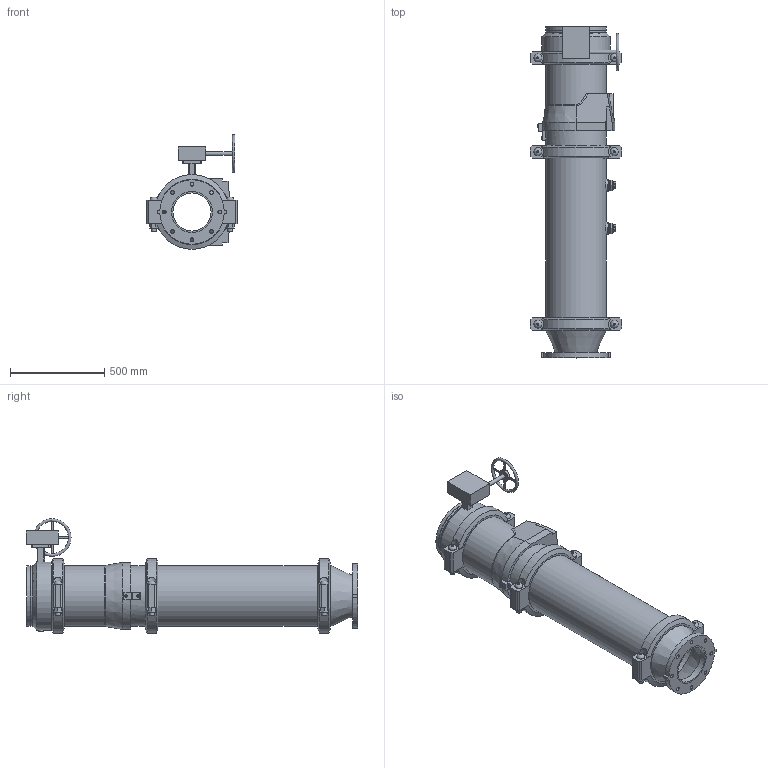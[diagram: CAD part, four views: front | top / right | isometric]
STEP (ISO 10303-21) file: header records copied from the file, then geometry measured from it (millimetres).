
FILE_DESCRIPTION(/* description */ ('VIC DVI PUMP DROP VERT S/390 (OGSxFLG)','CAx-IF Rec.Pracs.---Representation and Presentation of Product Manufacturing Information (PMI)---4.0---2014-10-13'),/* implementation_level */ '2;1');
FILE_NAME(/* name */ 'C:\Users\Vjadhav\AppData\Roaming\Autodesk\ApplicationPlugins\Back Up\Victaulic_IPS_Vertical DVI_PN10_Series 390 (OGSxFLG)\Victaulic_IPS_Vertical DVI_PN10_Series 390 (OGSxFLG)_12.0x08.0 (300x200).stp',/* time_stamp */ '2020-11-09T17:52:16+05:00',/* author */ ('Vjadhav'),/* organization */ ('Victaulic'),/* preprocessor_version */ 'ST-DEVELOPER v17.2',/* originating_system */ 'Autodesk Inventor 2019',/* authorisation */ '');
FILE_SCHEMA (('AP242_MANAGED_MODEL_BASED_3D_ENGINEERING_MIM_LF { 1 0 10303 442 1 1 4 }'));
Length unit declared in the file: inch
Products named in the file (8): 390-12.0x08.0; 741-08.0; 050-12.0x08.0; Pipe-12.0; 716-12.0; 923-10.0x0.75; 761-12.0; 077-12.0
Assembly tree (10 placements, depth 2):
  390-12.0x08.0
    741-08.0
    050-12.0x08.0
    Pipe-12.0
    716-12.0
    923-10.0x0.75  x2
    761-12.0
    077-12.0  x3
Bounding box: 488.95 x 1764.79 x 609.46 mm (x, y, z)
Volume: 36185398.5 mm3; surface area: 5042839.1 mm2
Topology: 10 solids, 17 shells, 475 faces, 1192 edges, 810 vertices
Faces by surface type: plane 283, cylinder 158, cone 20, bspline 8, torus 6
Full cylindrical faces by diameter (mm): 10.922 x4, 12.7 x2, 20.066 x9, 21.336 x2, 22.86 x1, 25.4 x12, 26.67 x2, 27.432 x6, 31.75 x1, 45.974 x4, 55.626 x2, 63.079 x1, 70.104 x1, 76.2 x2, 202.717 x1, 214.401 x1, 219.075 x3, 303.225 x1, 304.8 x2, 309.677 x1, 314.96 x3, 318.287 x7, 323.85 x19, 361.95 x1
Entity records: 10189 total; most frequent: CARTESIAN_POINT 2008, DIRECTION 1665, ORIENTED_EDGE 1512, EDGE_CURVE 756, AXIS2_PLACEMENT_3D 646, VERTEX_POINT 519, EDGE_LOOP 375, LINE 373
